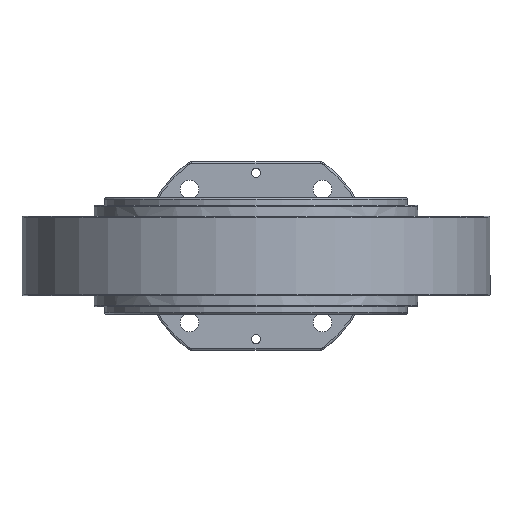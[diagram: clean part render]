
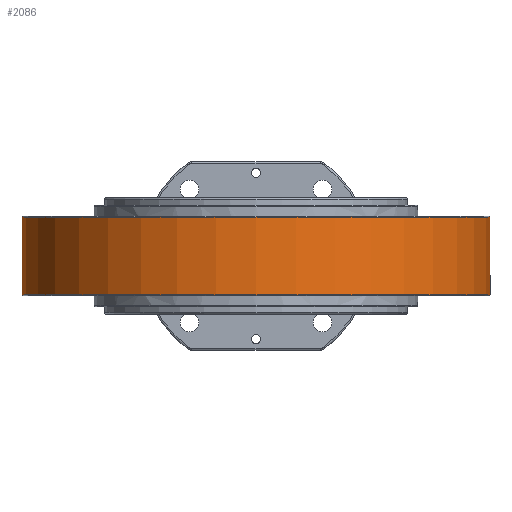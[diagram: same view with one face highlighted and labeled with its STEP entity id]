
A CAD part, front view. The second image highlights one B-rep face of the part: STEP entity #2086.
In plain terms, the highlighted cylindrical face has radius 126.75 mm (diameter 253.5 mm), a partial arc.
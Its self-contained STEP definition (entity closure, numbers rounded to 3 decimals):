
#2086=ADVANCED_FACE('',(#5722),#5724,.T.);
#5722=FACE_BOUND('',#5723,.T.);
#5723=EDGE_LOOP('',(#9200,#9201,#9202,#9203));
#5724=CYLINDRICAL_SURFACE('',#5725,126.75);
#5725=AXIS2_PLACEMENT_3D('',#5726,#5727,#5728);
#5726=CARTESIAN_POINT('',(0.,0.,0.));
#5727=DIRECTION('',(0.,0.,1.));
#5728=DIRECTION('',(0.,-1.,0.));
#9200=ORIENTED_EDGE('',*,*,#10799,.F.);
#9201=ORIENTED_EDGE('',*,*,#10967,.F.);
#9202=ORIENTED_EDGE('',*,*,#10877,.F.);
#9203=ORIENTED_EDGE('',*,*,#10874,.F.);
#10799=EDGE_CURVE('',#12227,#12230,#12231,.T.);
#10874=EDGE_CURVE('',#12230,#12354,#12355,.T.);
#10877=EDGE_CURVE('',#12354,#12358,#12359,.T.);
#10967=EDGE_CURVE('',#12358,#12227,#12502,.T.);
#12227=VERTEX_POINT('',#18103);
#12230=VERTEX_POINT('',#18112);
#12231=CIRCLE('',#18113,126.75);
#12354=VERTEX_POINT('',#19727);
#12355=LINE('',#19728,#19729);
#12358=VERTEX_POINT('',#19739);
#12359=CIRCLE('',#19740,126.75);
#12502=LINE('',#21483,#21484);
#18103=CARTESIAN_POINT('',(-85.377,93.682,21.));
#18112=CARTESIAN_POINT('',(85.377,93.682,21.));
#18113=AXIS2_PLACEMENT_3D('',#18114,#18115,#18116);
#18114=CARTESIAN_POINT('',(0.,0.,21.));
#18115=DIRECTION('',(0.,0.,1.));
#18116=DIRECTION('',(-0.674,0.739,0.));
#19727=CARTESIAN_POINT('',(85.377,93.682,-21.));
#19728=CARTESIAN_POINT('',(85.377,93.682,21.));
#19729=VECTOR('',#19730,1.);
#19730=DIRECTION('',(0.,0.,-1.));
#19739=CARTESIAN_POINT('',(-85.377,93.682,-21.));
#19740=AXIS2_PLACEMENT_3D('',#19741,#19742,#19743);
#19741=CARTESIAN_POINT('',(0.,0.,-21.));
#19742=DIRECTION('',(0.,0.,-1.));
#19743=DIRECTION('',(0.674,0.739,0.));
#21483=CARTESIAN_POINT('',(-85.377,93.682,-21.));
#21484=VECTOR('',#21485,1.);
#21485=DIRECTION('',(0.,0.,1.));
